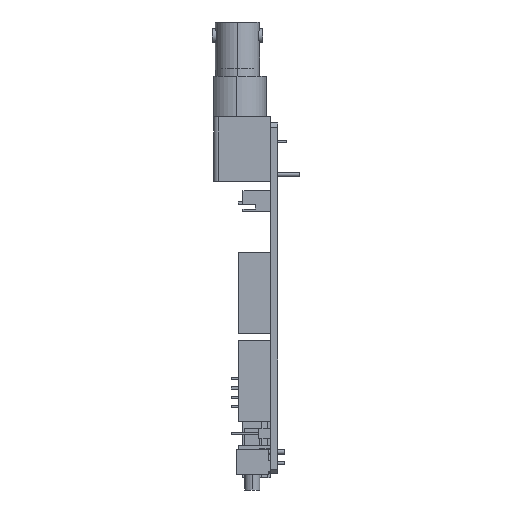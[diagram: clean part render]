
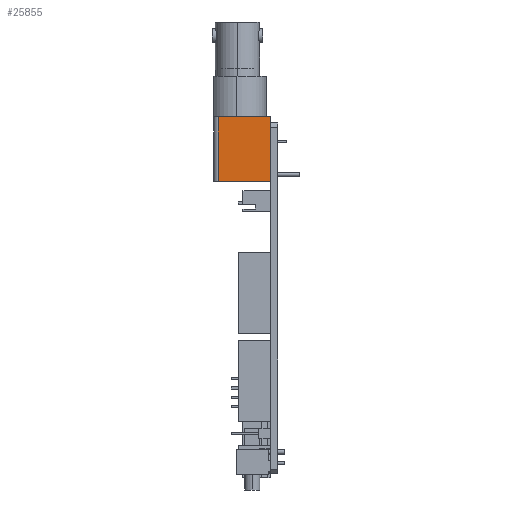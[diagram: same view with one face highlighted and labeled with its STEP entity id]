
A CAD part, left-side view. The second image highlights one B-rep face of the part: STEP entity #25855.
In plain terms, the highlighted planar face has unit normal (-1, 0, 0).
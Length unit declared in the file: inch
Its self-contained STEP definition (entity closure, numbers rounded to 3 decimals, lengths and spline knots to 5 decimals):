
#202 = CARTESIAN_POINT ( 'NONE',  ( -0.28937, 0.48819, -0.27559 ) ) ;
#336 = DIRECTION ( 'NONE',  ( 0., -1., 0. ) ) ;
#510 = VECTOR ( 'NONE', #5502, 39.37008 ) ;
#2613 = FACE_OUTER_BOUND ( 'NONE', #20574, .T. ) ;
#3028 = EDGE_CURVE ( 'NONE', #18382, #4301, #24210, .T. ) ;
#4301 = VERTEX_POINT ( 'NONE', #11322 ) ;
#4309 = EDGE_CURVE ( 'NONE', #16861, #18846, #15583, .T. ) ;
#4687 = ORIENTED_EDGE ( 'NONE', *, *, #10209, .F. ) ;
#5376 = CARTESIAN_POINT ( 'NONE',  ( -0.28937, 0.48819, 0.27559 ) ) ;
#5502 = DIRECTION ( 'NONE',  ( 0., -1., 0. ) ) ;
#6007 = CARTESIAN_POINT ( 'NONE',  ( -0.28937, 0.44882, 0.27559 ) ) ;
#6427 = CARTESIAN_POINT ( 'NONE',  ( -0.28937, 0., -0.27559 ) ) ;
#7375 = AXIS2_PLACEMENT_3D ( 'NONE', #25278, #22889, #18747 ) ;
#10194 = LINE ( 'NONE', #202, #21368 ) ;
#10209 = EDGE_CURVE ( 'NONE', #18382, #18846, #13222, .T. ) ;
#11322 = CARTESIAN_POINT ( 'NONE',  ( -0.28937, 0.44882, -0.27559 ) ) ;
#12448 = EDGE_CURVE ( 'NONE', #4301, #16861, #10194, .T. ) ;
#13222 = LINE ( 'NONE', #5376, #510 ) ;
#13581 = CARTESIAN_POINT ( 'NONE',  ( -0.28937, 0., -0.27559 ) ) ;
#13819 = ORIENTED_EDGE ( 'NONE', *, *, #4309, .T. ) ;
#14072 = ORIENTED_EDGE ( 'NONE', *, *, #3028, .T. ) ;
#15387 = VECTOR ( 'NONE', #25826, 39.37008 ) ;
#15583 = LINE ( 'NONE', #13581, #17589 ) ;
#16834 = CARTESIAN_POINT ( 'NONE',  ( -0.28937, 0., 0.27559 ) ) ;
#16861 = VERTEX_POINT ( 'NONE', #6427 ) ;
#17589 = VECTOR ( 'NONE', #23848, 39.37008 ) ;
#18382 = VERTEX_POINT ( 'NONE', #6007 ) ;
#18747 = DIRECTION ( 'NONE',  ( 0., 0., -1. ) ) ;
#18846 = VERTEX_POINT ( 'NONE', #16834 ) ;
#20073 = CARTESIAN_POINT ( 'NONE',  ( -0.28937, 0.44882, -0.27559 ) ) ;
#20076 = ORIENTED_EDGE ( 'NONE', *, *, #12448, .T. ) ;
#20574 = EDGE_LOOP ( 'NONE', ( #4687, #14072, #20076, #13819 ) ) ;
#21368 = VECTOR ( 'NONE', #336, 39.37008 ) ;
#22889 = DIRECTION ( 'NONE',  ( 1., 0., 0. ) ) ;
#23848 = DIRECTION ( 'NONE',  ( 0., 0., 1. ) ) ;
#24210 = LINE ( 'NONE', #20073, #15387 ) ;
#24744 = PLANE ( 'NONE',  #7375 ) ;
#25278 = CARTESIAN_POINT ( 'NONE',  ( -0.28937, 0.48819, -0.27559 ) ) ;
#25826 = DIRECTION ( 'NONE',  ( 0., 0., -1. ) ) ;
#25855 = ADVANCED_FACE ( 'NONE', ( #2613 ), #24744, .F. ) ;
